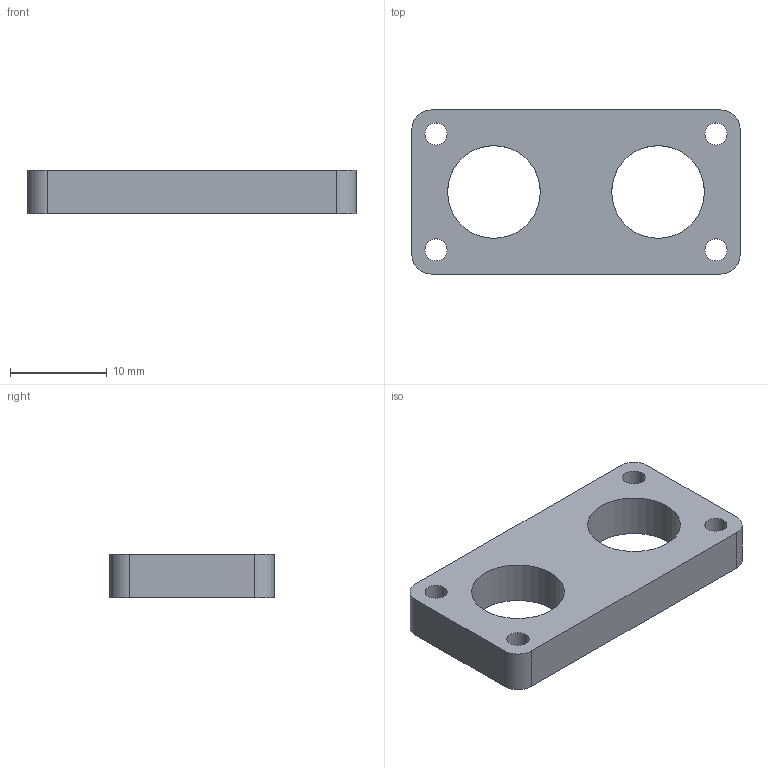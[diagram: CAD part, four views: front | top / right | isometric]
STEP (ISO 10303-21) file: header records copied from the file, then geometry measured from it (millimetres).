
FILE_DESCRIPTION(('Open CASCADE Model'),'2;1');
FILE_NAME('Open CASCADE Shape Model','2026-10-09T15:33:22',('Author'),( 'Open CASCADE'),'Open CASCADE STEP processor 7.9','Open CASCADE 7.9' ,'Unknown');
FILE_SCHEMA(('AUTOMOTIVE_DESIGN { 1 0 10303 214 1 1 1 1 }'));
Length unit declared in the file: millimetre
Products named in the file (1): Open CASCADE STEP translator 7.9 7
Bounding box: 34 x 17 x 4.5 mm (x, y, z)
Volume: 1859.3 mm3; surface area: 1671.4 mm2
Topology: 1 solids, 1 shells, 16 faces, 42 edges, 28 vertices
Faces by surface type: cylinder 10, plane 6
Full cylindrical faces by diameter (mm): 2.3 x4, 9.6 x2
Entity records: 1128 total; most frequent: CARTESIAN_POINT 255, DIRECTION 166, LINE 86, VECTOR 86, ORIENTED_EDGE 84, PCURVE 84, DEFINITIONAL_REPRESENTATION 84, EDGE_CURVE 42
